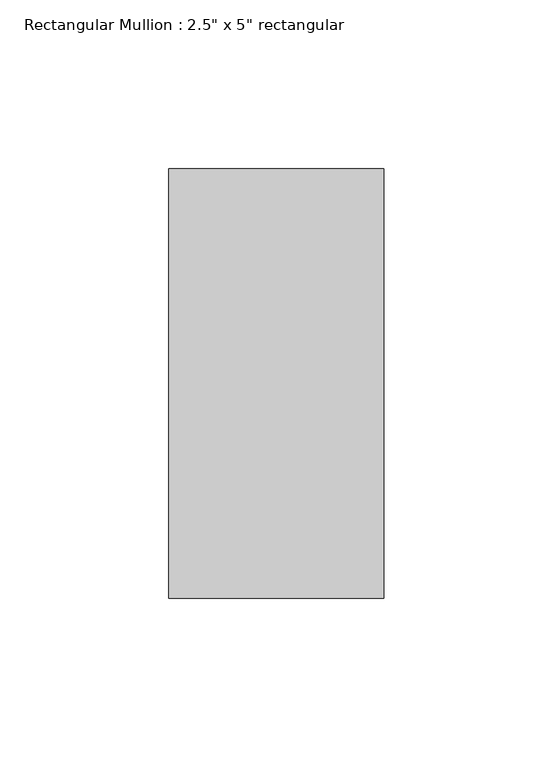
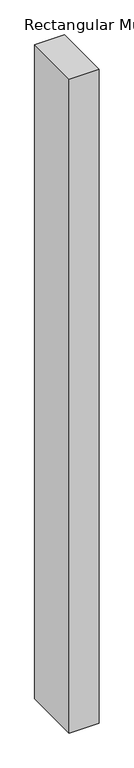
"""IFC4 building model written with IfcOpenShell, lengths in millimetres: member geometry."""

from ifc_helpers import new_model, si_unit, frame, origin, place, context, project, spatial, polyline, outline, extrude, source, transform, mapped, element, save


def member_00559c8f(model_context):
    return source(origin(), model_context, "Body", "SweptSolid", [
        extrude(outline(polyline([(31.75, 63.5), (31.75, -63.5), (-31.75, -63.5), (-31.75, 63.5), (31.75, 63.5)])), frame((0.0, 0.0, -1466.85), z_axis=(0.0, 0.0, 1.0), x_axis=(1.0, 0.0, 0.0)), (0.0, 0.0, 1.0), 1466.85),
    ])


if __name__ == "__main__":
    model = new_model("IFC4")
    model_context = context("Model", 3, world=origin())
    ifc_project = project(units=[si_unit("LENGTHUNIT", "METRE", prefix="MILLI")], contexts=[model_context])
    site = spatial("IfcSite", under=ifc_project)
    building = spatial("IfcBuilding", under=site)
    placement = place(None, origin())
    member_shape = member_00559c8f(model_context)
    element("IfcMember", 1, ObjectType="Rectangular Mullion : 2.5\" x 5\" rectangular", at=placement, inside=building, context=model_context, shape_type="MappedRepresentation", body=[
        mapped(member_shape, transform((0.0, 0.0, 0.0), x_axis=(1.0, 0.0, 0.0), y_axis=(0.0, 1.0, 0.0), z_axis=(0.0, 0.0, 1.0))),
    ])
    save(model, "model.ifc")
